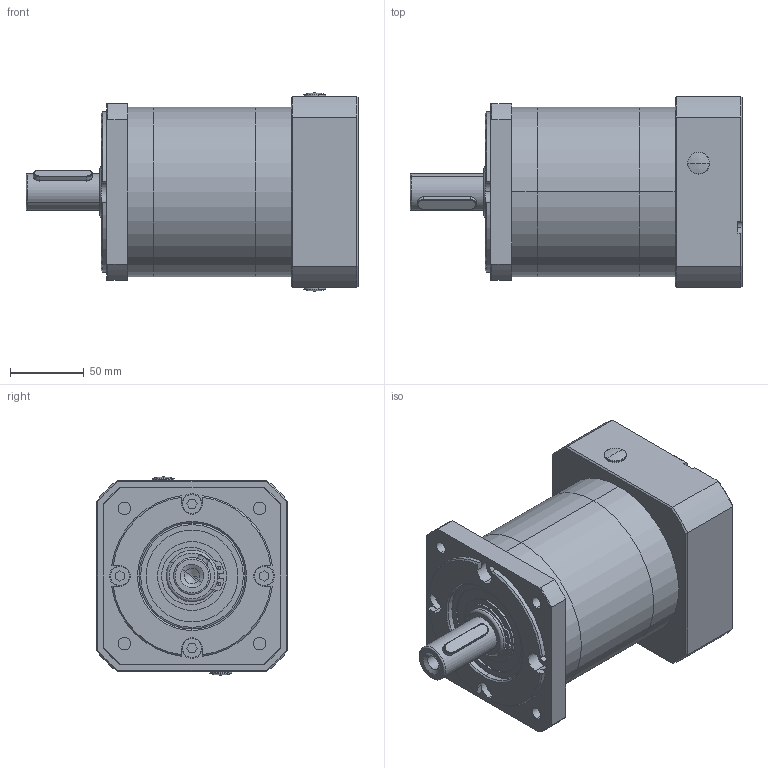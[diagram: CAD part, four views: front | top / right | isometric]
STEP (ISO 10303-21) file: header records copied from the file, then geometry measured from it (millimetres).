
FILE_DESCRIPTION (( 'STEP AP203' ), '1' );
FILE_NAME ('PF115L2-i-P2-S2-22-58-110-145-M8.step', '2020-03-23T09:05:58', ( '个人用户' ), ( '微软中国' ), 'SwSTEP 2.0', 'SolidWorks 2018', '' );
FILE_SCHEMA (( 'CONFIG_CONTROL_DESIGN' ));
Length unit declared in the file: millimetre
Products named in the file (1): PF115L2-i-P2-S2-22-58-110-145-M8
Bounding box: 225.5 x 130 x 134.6 mm (x, y, z)
Volume: 1555752.3 mm3; surface area: 328788.6 mm2
Topology: 32 solids, 32 shells, 1104 faces, 2597 edges, 1636 vertices
Faces by surface type: cylinder 381, plane 301, sphere 172, cone 130, torus 118, bspline 2
Entity records: 37978 total; most frequent: CARTESIAN_POINT 12013, DIRECTION 5801, ORIENTED_EDGE 5130, EDGE_CURVE 2565, AXIS2_PLACEMENT_3D 2484, VERTEX_POINT 1636, CIRCLE 1381, EDGE_LOOP 1303
